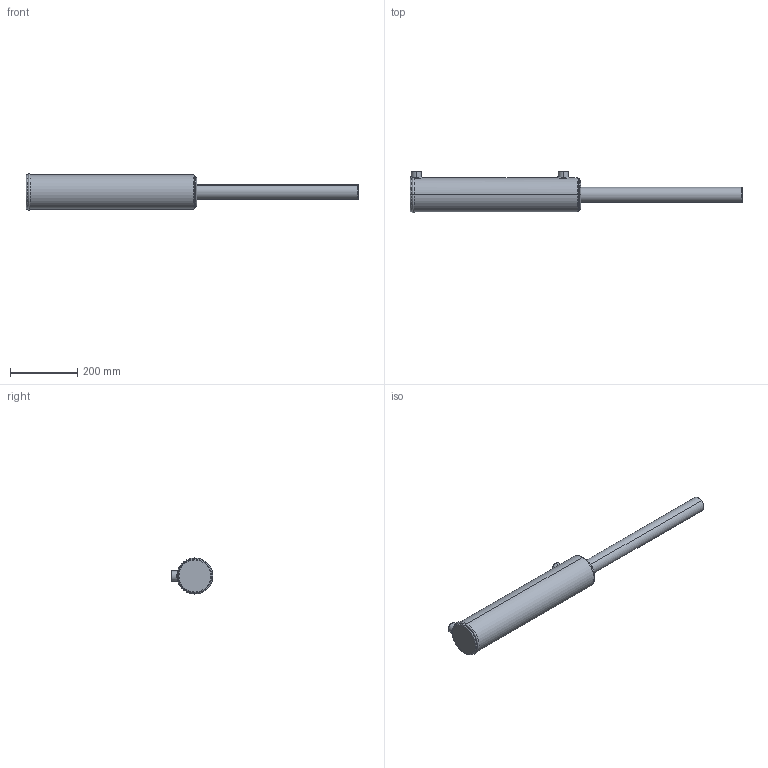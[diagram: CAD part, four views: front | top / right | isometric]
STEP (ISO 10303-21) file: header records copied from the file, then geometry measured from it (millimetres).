
FILE_DESCRIPTION (( 'STEP AP203' ), '1' );
FILE_NAME ('BL350175x406 (16) extended.STEP', '2014-11-24T03:14:47', ( '' ), ( '' ), 'SwSTEP 2.0', 'SolidWorks 2014', '' );
FILE_SCHEMA (( 'CONFIG_CONTROL_DESIGN' ));
Length unit declared in the file: millimetre
Products named in the file (3): BL body 3.5_3.5x16; Spare_3.5x16; BL350175x406 (16) extended
Assembly tree (2 placements, depth 2):
  BL350175x406 (16) extended
    BL body 3.5_3.5x16
    Spare_3.5x16
Bounding box: 987 x 124.4 x 107.2 mm (x, y, z)
Volume: 4472392 mm3; surface area: 293693.2 mm2
Topology: 2 solids, 2 shells, 88 faces, 205 edges, 126 vertices
Faces by surface type: cylinder 32, plane 20, torus 17, bspline 11, cone 8
Entity records: 6022 total; most frequent: CARTESIAN_POINT 3775, DIRECTION 420, ORIENTED_EDGE 402, EDGE_CURVE 201, AXIS2_PLACEMENT_3D 181, VERTEX_POINT 126, EDGE_LOOP 101, CIRCLE 99
